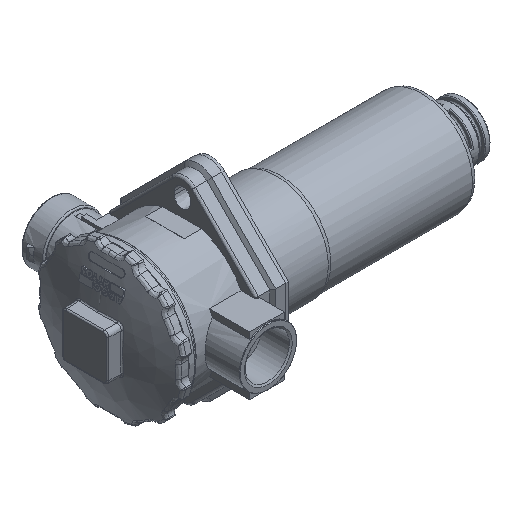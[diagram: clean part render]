
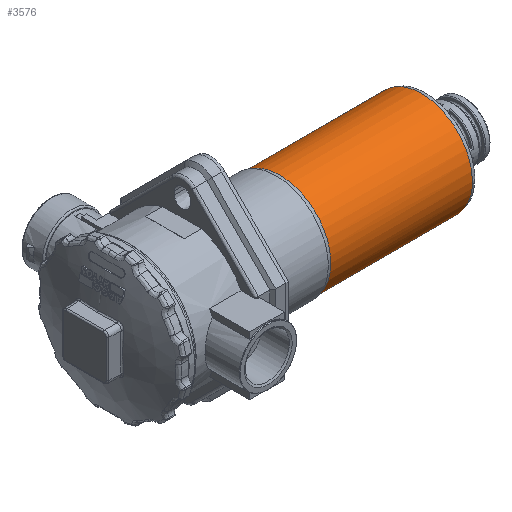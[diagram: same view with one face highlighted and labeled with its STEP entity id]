
A CAD part, isometric view. The second image highlights one B-rep face of the part: STEP entity #3576.
In plain terms, the highlighted free-form (B-spline) face has degree [2, 1] with [7, 2] control points.
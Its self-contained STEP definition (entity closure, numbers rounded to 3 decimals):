
#3466=CARTESIAN_POINT('V259',(211.145,
   -35.5,0.));
#3467=VERTEX_POINT('V259',#3466);
#3483=CARTESIAN_POINT('E356',(211.145,
   -35.5,0.));
#3484=CARTESIAN_POINT('E356',(211.145,
   -35.5,2.249));
#3485=CARTESIAN_POINT('E356',(211.145,
   -35.071,6.75));
#3486=CARTESIAN_POINT('E356',(211.145,
   -33.164,13.255));
#3487=CARTESIAN_POINT('E356',(211.145,
   -30.061,19.284));
#3488=CARTESIAN_POINT('E356',(211.145,
   -25.924,24.554));
#3489=CARTESIAN_POINT('E356',(211.145,
   -20.944,28.91));
#3490=CARTESIAN_POINT('E356',(211.145,
   -14.529,32.715));
#3491=CARTESIAN_POINT('E356',(211.145,-6.519,
   35.309));
#3492=CARTESIAN_POINT('E356',(211.145,1.904,
   35.747));
#3493=CARTESIAN_POINT('E356',(211.145,9.283,
   34.474));
#3494=CARTESIAN_POINT('E356',(211.145,15.454,
   32.184));
#3495=CARTESIAN_POINT('E356',(211.145,21.1,
   28.8));
#3496=CARTESIAN_POINT('E356',(211.145,26.084,
   24.388));
#3497=CARTESIAN_POINT('E356',(211.145,30.203,
   19.064));
#3498=CARTESIAN_POINT('E356',(211.145,33.27,
   12.99));
#3499=CARTESIAN_POINT('E356',(211.145,35.13,
   6.444));
#3500=CARTESIAN_POINT('E356',(211.145,35.72,
   -0.401));
#3501=CARTESIAN_POINT('E356',(211.145,34.975,
   -7.299));
#3502=CARTESIAN_POINT('E356',(211.145,32.879,
   -13.983));
#3503=CARTESIAN_POINT('E356',(211.145,29.52,
   -20.128));
#3504=CARTESIAN_POINT('E356',(211.145,24.92,
   -25.627));
#3505=CARTESIAN_POINT('E356',(211.145,19.17,
   -30.191));
#3506=CARTESIAN_POINT('E356',(211.145,12.694,
   -33.404));
#3507=CARTESIAN_POINT('E356',(211.145,5.988,
   -35.202));
#3508=CARTESIAN_POINT('E356',(211.145,-0.659,
   -35.701));
#3509=CARTESIAN_POINT('E356',(211.145,-7.284,
   -34.957));
#3510=CARTESIAN_POINT('E356',(211.145,
   -13.204,-33.132));
#3511=CARTESIAN_POINT('E356',(211.145,
   -18.308,-30.565));
#3512=CARTESIAN_POINT('E356',(211.145,
   -22.596,-27.547));
#3513=CARTESIAN_POINT('E356',(211.145,
   -26.394,-23.932));
#3514=CARTESIAN_POINT('E356',(211.145,
   -29.621,-19.799));
#3515=CARTESIAN_POINT('E356',(211.145,
   -32.206,-15.237));
#3516=CARTESIAN_POINT('E356',(211.145,
   -34.094,-10.345));
#3517=CARTESIAN_POINT('E356',(211.145,
   -35.243,-5.229));
#3518=CARTESIAN_POINT('E356',(211.145,
   -35.5,-1.743));
#3519=CARTESIAN_POINT('E356',(211.145,
   -35.5,0.));
#3520=B_SPLINE_CURVE_WITH_KNOTS('E356',3,(#3483,#3484,#3485,#3486,
   #3487,#3488,#3489,#3490,#3491,#3492,#3493,#3494,#3495,#3496,#3497,
   #3498,#3499,#3500,#3501,#3502,#3503,#3504,#3505,#3506,#3507,#3508,
   #3509,#3510,#3511,#3512,#3513,#3514,#3515,#3516,#3517,#3518,#3519),
   .UNSPECIFIED.,.T.,.U.,(4,1,1,1,1,1,1,1,1,1,1,1,1,1,1,1,1,1,1,1,1,
   1,1,1,1,1,1,1,1,1,1,1,1,1,4),(2.0,3.143,
   4.287,5.43,6.574,
   7.676,8.779,10.348,
   11.917,13.027,14.138,
   15.248,16.358,17.506,
   18.653,19.801,20.949,
   22.129,23.31,24.491,
   25.672,26.936,28.2,
   29.325,30.449,31.573,
   32.698,33.584,34.47,
   35.356,36.242,37.128,
   38.014,38.9,39.786),
   .UNSPECIFIED.);
#3521=EDGE_CURVE('E356',#3467,#3467,#3520,.T.);
#3526=CARTESIAN_POINT('F112',(112.347,
   -35.5,0.));
#3527=CARTESIAN_POINT('F112',(112.347,
   -35.5,-61.488));
#3528=CARTESIAN_POINT('F112',(112.347,17.75,
   -30.744));
#3529=CARTESIAN_POINT('F112',(112.347,71.0,
   0.));
#3530=CARTESIAN_POINT('F112',(112.347,17.75,
   30.744));
#3531=CARTESIAN_POINT('F112',(112.347,
   -35.5,61.488));
#3532=CARTESIAN_POINT('F112',(112.347,
   -35.5,0.));
#3533=CARTESIAN_POINT('F112',(214.215,
   -35.5,0.));
#3534=CARTESIAN_POINT('F112',(214.215,
   -35.5,-61.488));
#3535=CARTESIAN_POINT('F112',(214.215,17.75,
   -30.744));
#3536=CARTESIAN_POINT('F112',(214.215,71.0,
   0.));
#3537=CARTESIAN_POINT('F112',(214.215,17.75,
   30.744));
#3538=CARTESIAN_POINT('F112',(214.215,
   -35.5,61.488));
#3539=CARTESIAN_POINT('F112',(214.215,
   -35.5,0.));
#3547=(BOUNDED_SURFACE()B_SPLINE_SURFACE(2,1,((#3526,#3533),(
   #3527,#3534),(#3528,#3535),(#3529,#3536),(#3530,#3537),(
   #3531,#3538),(#3532,#3539)),.CYLINDRICAL_SURF.,.T.,.F.,.U.)
   B_SPLINE_SURFACE_WITH_KNOTS((3,2,2,3),(2,2),(0.0,
   1.207,2.414,3.622),(0.0,1.0),
   .UNSPECIFIED.)GEOMETRIC_REPRESENTATION_ITEM()
   RATIONAL_B_SPLINE_SURFACE(((1.0,1.0),(0.5,
   0.5),(1.0,1.0),(0.5,
   0.5),(1.0,1.0),(0.5,
   0.5),(1.0,1.0)))REPRESENTATION_ITEM('F112')
   SURFACE());
#3548=ORIENTED_EDGE('F143',*,*,#3521,.T.);
#3549=CARTESIAN_POINT('V258',(112.347,
   -35.5,0.));
#3550=VERTEX_POINT('V258',#3549);
#3551=CARTESIAN_POINT('E357',(211.145,
   -35.5,0.0));
#3552=CARTESIAN_POINT('E357',(112.347,
   -35.5,0.0));
#3553=B_SPLINE_CURVE_WITH_KNOTS('E357',1,(#3551,#3552),
   .POLYLINE_FORM.,.F.,.U.,(2,2),(0.03,1.0),
   .UNSPECIFIED.);
#3554=EDGE_CURVE('E357',#3467,#3550,#3553,.T.);
#3555=ORIENTED_EDGE('E357',*,*,#3554,.T.);
#3556=CARTESIAN_POINT('E355',(112.347,
   -35.5,0.));
#3557=CARTESIAN_POINT('E355',(112.347,
   -35.5,-61.488));
#3558=CARTESIAN_POINT('E355',(112.347,17.75,
   -30.744));
#3559=CARTESIAN_POINT('E355',(112.347,71.0,
   0.));
#3560=CARTESIAN_POINT('E355',(112.347,17.75,
   30.744));
#3561=CARTESIAN_POINT('E355',(112.347,
   -35.5,61.488));
#3562=CARTESIAN_POINT('E355',(112.347,
   -35.5,0.));
#3570=(BOUNDED_CURVE()B_SPLINE_CURVE(2,(#3556,#3557,#3558,#3559,
   #3560,#3561,#3562),.CIRCULAR_ARC.,.T.,.U.)
   B_SPLINE_CURVE_WITH_KNOTS((3,2,2,3),(0.0,42.653,
   85.305,127.958),.UNSPECIFIED.)CURVE()
   GEOMETRIC_REPRESENTATION_ITEM()RATIONAL_B_SPLINE_CURVE((1.0,
   0.5,1.0,0.5,1.0,0.5,1.0)
   )REPRESENTATION_ITEM('E355'));
#3571=EDGE_CURVE('E355',#3550,#3550,#3570,.T.);
#3572=ORIENTED_EDGE('E355',*,*,#3571,.T.);
#3573=ORIENTED_EDGE('E357',*,*,#3554,.F.);
#3574=EDGE_LOOP('F112',(#3548,#3555,#3572,#3573));
#3575=FACE_OUTER_BOUND('F112',#3574,.T.);
#3576=ADVANCED_FACE('F112',(#3575),#3547,.T.);
